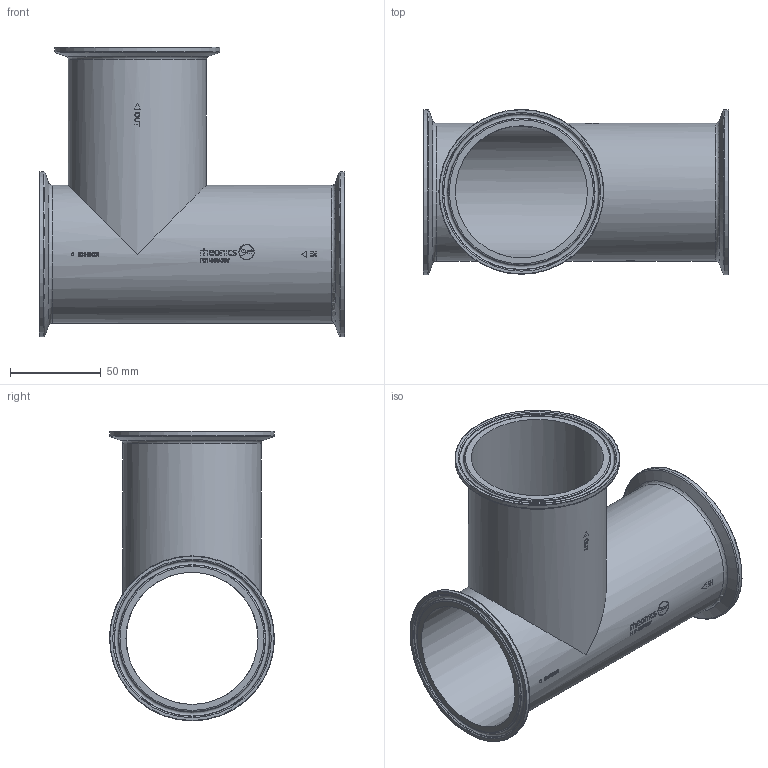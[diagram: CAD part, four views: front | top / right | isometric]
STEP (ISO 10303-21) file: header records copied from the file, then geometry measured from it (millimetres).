
FILE_DESCRIPTION(/* description */ ('Unknown'),/* implementation_level */ '2;1');
FILE_NAME(/* name */ 'FET-30T-30T',/* time_stamp */ '2024-08-13T16:15:57-05:00',/* author */ ('Unknown'),/* organization */ ('Unknown'),/* preprocessor_version */ 'ST-DEVELOPER v16.7',/* originating_system */ 'Solid Edge',/* authorisation */ 'Unknown');
FILE_SCHEMA (('CONFIG_CONTROL_DESIGN'));
Length unit declared in the file: millimetre
Products named in the file (1): FET-30T-30T
Bounding box: 168.3 x 91 x 159.8 mm (x, y, z)
Volume: 112539.3 mm3; surface area: 122562.2 mm2
Topology: 1 solids, 1 shells, 636 faces, 1673 edges, 1106 vertices
Faces by surface type: plane 255, bspline 240, cylinder 114, torus 18, cone 9
Full cylindrical faces by diameter (mm): 72.9 x2, 76.2 x2, 91 x3
Entity records: 39929 total; most frequent: CARTESIAN_POINT 22068, ORIENTED_EDGE 3058, DIRECTION 2074, EDGE_CURVE 1529, VERTEX_POINT 1045, EDGE_LOOP 776, FACE_BOUND 776, LINE 696
